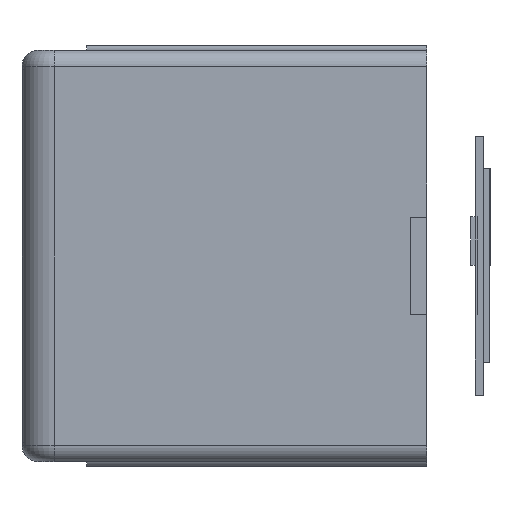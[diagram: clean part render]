
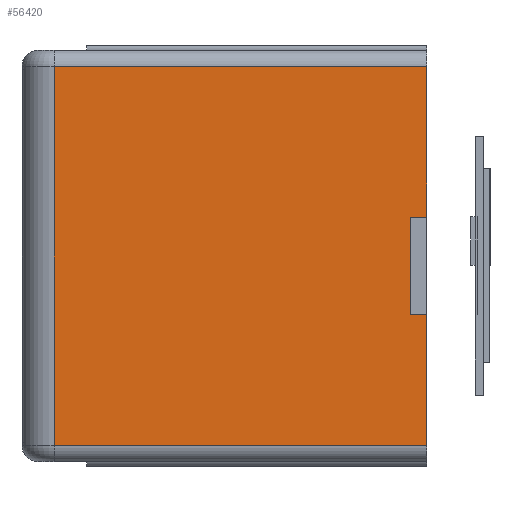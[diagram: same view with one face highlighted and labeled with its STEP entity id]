
A CAD part, left-side view. The second image highlights one B-rep face of the part: STEP entity #56420.
In plain terms, the highlighted planar face has unit normal (-1, 0, 0).
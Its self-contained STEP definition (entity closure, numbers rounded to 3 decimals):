
#480 = VERTEX_POINT ( 'NONE', #80460 ) ;
#1832 = VECTOR ( 'NONE', #60965, 1000. ) ;
#1885 = VECTOR ( 'NONE', #65013, 1000. ) ;
#2140 = PLANE ( 'NONE',  #79371 ) ;
#2377 = LINE ( 'NONE', #39846, #1885 ) ;
#2642 = CARTESIAN_POINT ( 'NONE',  ( -19., 11.5, -5.85 ) ) ;
#4509 = LINE ( 'NONE', #73321, #1832 ) ;
#5632 = LINE ( 'NONE', #56316, #13250 ) ;
#5776 = ORIENTED_EDGE ( 'NONE', *, *, #24313, .F. ) ;
#6445 = VERTEX_POINT ( 'NONE', #11616 ) ;
#7142 = VECTOR ( 'NONE', #8913, 1000. ) ;
#8913 = DIRECTION ( 'NONE',  ( 0., 1., 0. ) ) ;
#9547 = DIRECTION ( 'NONE',  ( 1., 0., 0. ) ) ;
#11616 = CARTESIAN_POINT ( 'NONE',  ( -19., 0., 5.85 ) ) ;
#12205 = EDGE_CURVE ( 'NONE', #30474, #6445, #21295, .T. ) ;
#12585 = ORIENTED_EDGE ( 'NONE', *, *, #51845, .T. ) ;
#12938 = LINE ( 'NONE', #50839, #42023 ) ;
#13108 = VERTEX_POINT ( 'NONE', #41969 ) ;
#13250 = VECTOR ( 'NONE', #49299, 1000. ) ;
#14673 = LINE ( 'NONE', #22085, #29750 ) ;
#15315 = DIRECTION ( 'NONE',  ( 0., 0., -1. ) ) ;
#18390 = VERTEX_POINT ( 'NONE', #59009 ) ;
#19393 = VERTEX_POINT ( 'NONE', #78875 ) ;
#19605 = CARTESIAN_POINT ( 'NONE',  ( -19., 11.5, 5.85 ) ) ;
#21295 = LINE ( 'NONE', #71562, #66839 ) ;
#22085 = CARTESIAN_POINT ( 'NONE',  ( -19., 0., -1.8 ) ) ;
#23721 = EDGE_CURVE ( 'NONE', #55980, #13108, #5632, .T. ) ;
#24313 = EDGE_CURVE ( 'NONE', #30474, #480, #12938, .T. ) ;
#26099 = DIRECTION ( 'NONE',  ( 0., 1., 0. ) ) ;
#26471 = VECTOR ( 'NONE', #54063, 1000. ) ;
#26657 = DIRECTION ( 'NONE',  ( 0., 0., 1. ) ) ;
#29153 = ORIENTED_EDGE ( 'NONE', *, *, #58706, .T. ) ;
#29750 = VECTOR ( 'NONE', #58779, 1000. ) ;
#30474 = VERTEX_POINT ( 'NONE', #73295 ) ;
#31040 = ORIENTED_EDGE ( 'NONE', *, *, #67948, .F. ) ;
#34011 = CARTESIAN_POINT ( 'NONE',  ( -19., 11.5, 5.85 ) ) ;
#38561 = LINE ( 'NONE', #34011, #7142 ) ;
#39846 = CARTESIAN_POINT ( 'NONE',  ( -19., 0.5, -1.8 ) ) ;
#41969 = CARTESIAN_POINT ( 'NONE',  ( -19., 0., -5.85 ) ) ;
#42023 = VECTOR ( 'NONE', #26099, 1000. ) ;
#42035 = ORIENTED_EDGE ( 'NONE', *, *, #78104, .T. ) ;
#45788 = CARTESIAN_POINT ( 'NONE',  ( -19., 12.5, 6.5 ) ) ;
#48945 = EDGE_LOOP ( 'NONE', ( #42035, #74929, #29153, #31040, #52441, #5776, #79100, #12585 ) ) ;
#49299 = DIRECTION ( 'NONE',  ( 0., -1., 0. ) ) ;
#50839 = CARTESIAN_POINT ( 'NONE',  ( -19., 0., 1.2 ) ) ;
#51845 = EDGE_CURVE ( 'NONE', #6445, #79271, #38561, .T. ) ;
#52441 = ORIENTED_EDGE ( 'NONE', *, *, #78836, .F. ) ;
#54063 = DIRECTION ( 'NONE',  ( 0., 0., 1. ) ) ;
#55980 = VERTEX_POINT ( 'NONE', #2642 ) ;
#56316 = CARTESIAN_POINT ( 'NONE',  ( -19., 0., -5.85 ) ) ;
#56420 = ADVANCED_FACE ( 'NONE', ( #60223 ), #2140, .F. ) ;
#58706 = EDGE_CURVE ( 'NONE', #13108, #19393, #61069, .T. ) ;
#58779 = DIRECTION ( 'NONE',  ( 0., -1., 0. ) ) ;
#59009 = CARTESIAN_POINT ( 'NONE',  ( -19., 0.5, -1.8 ) ) ;
#60223 = FACE_OUTER_BOUND ( 'NONE', #48945, .T. ) ;
#60965 = DIRECTION ( 'NONE',  ( 0., 0., -1. ) ) ;
#61069 = LINE ( 'NONE', #73833, #26471 ) ;
#65013 = DIRECTION ( 'NONE',  ( 0., 0., -1. ) ) ;
#66839 = VECTOR ( 'NONE', #26657, 1000. ) ;
#67948 = EDGE_CURVE ( 'NONE', #18390, #19393, #14673, .T. ) ;
#71562 = CARTESIAN_POINT ( 'NONE',  ( -19., 0., 6.5 ) ) ;
#73295 = CARTESIAN_POINT ( 'NONE',  ( -19., 0., 1.2 ) ) ;
#73321 = CARTESIAN_POINT ( 'NONE',  ( -19., 11.5, 6.5 ) ) ;
#73833 = CARTESIAN_POINT ( 'NONE',  ( -19., 0., 6.5 ) ) ;
#74929 = ORIENTED_EDGE ( 'NONE', *, *, #23721, .T. ) ;
#78104 = EDGE_CURVE ( 'NONE', #79271, #55980, #4509, .T. ) ;
#78836 = EDGE_CURVE ( 'NONE', #480, #18390, #2377, .T. ) ;
#78875 = CARTESIAN_POINT ( 'NONE',  ( -19., 0., -1.8 ) ) ;
#79100 = ORIENTED_EDGE ( 'NONE', *, *, #12205, .T. ) ;
#79271 = VERTEX_POINT ( 'NONE', #19605 ) ;
#79371 = AXIS2_PLACEMENT_3D ( 'NONE', #45788, #9547, #15315 ) ;
#80460 = CARTESIAN_POINT ( 'NONE',  ( -19., 0.5, 1.2 ) ) ;
